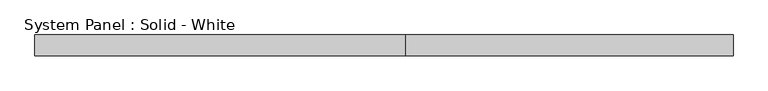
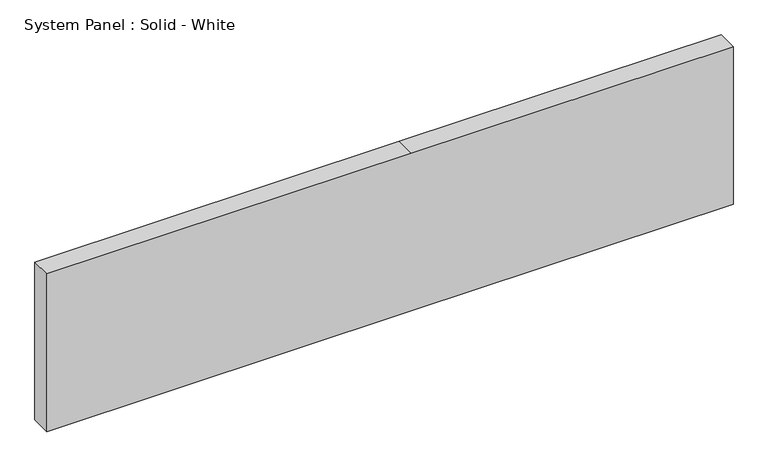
"""IFC4 building model written with IfcOpenShell, lengths in millimetres: plate geometry, System Panel : Solid - White."""

from ifc_helpers import new_model, si_unit, frame, origin, place, context, project, spatial, polyline, outline, extrude, source, transform, mapped, element, save


def system_panel_solid_white_17433e69(model_context):
    return source(origin(), model_context, "Body", "SweptSolid", [
        extrude(outline(polyline([(0.0, -1058.4447942), (0.0, 66.1254237), (0.0, 1058.4447942), (514.35, 1058.4447942), (514.35, 66.1254237), (514.35, -1058.4447942), (0.0, -1058.4447942)])), frame((0.0, -19.05, 0.0), z_axis=(0.0, 1.0, 0.0), x_axis=(0.0, 0.0, 1.0)), (0.0, 0.0, 1.0), 63.5),
    ])


if __name__ == "__main__":
    model = new_model("IFC4")
    model_context = context("Model", 3, world=origin())
    ifc_project = project(units=[si_unit("LENGTHUNIT", "METRE", prefix="MILLI")], contexts=[model_context])
    site = spatial("IfcSite", under=ifc_project)
    building = spatial("IfcBuilding", under=site)
    placement = place(None, origin())
    system_panel_solid_white_shape = system_panel_solid_white_17433e69(model_context)
    element("IfcPlate", 1, ObjectType="System Panel : Solid - White", at=placement, inside=building, context=model_context, shape_type="MappedRepresentation", body=[
        mapped(system_panel_solid_white_shape, transform((0.0, 0.0, 0.0), x_axis=(1.0, 0.0, 0.0), y_axis=(0.0, 1.0, 0.0), z_axis=(0.0, 0.0, 1.0))),
    ])
    save(model, "model.ifc")
